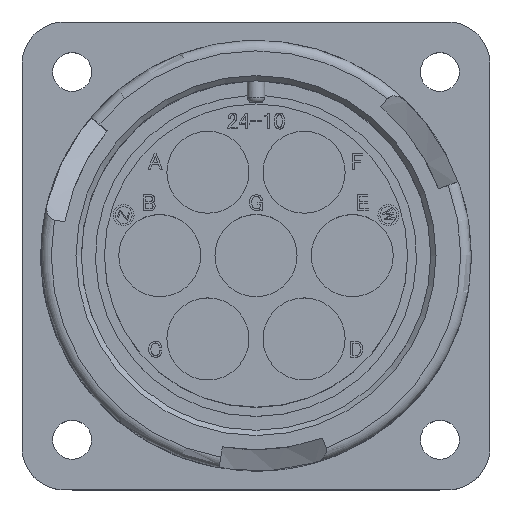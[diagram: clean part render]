
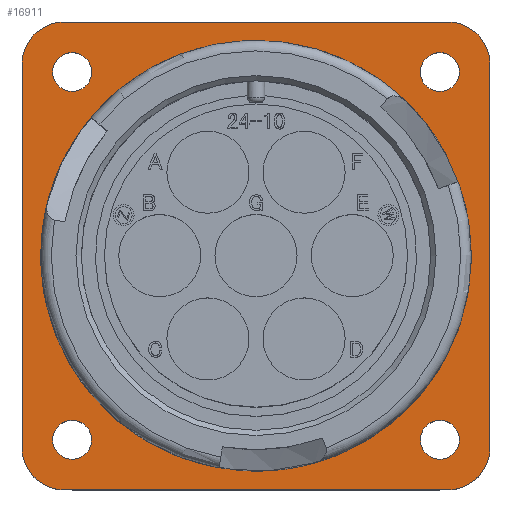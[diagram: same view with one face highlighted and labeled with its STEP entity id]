
A CAD part, top view. The second image highlights one B-rep face of the part: STEP entity #16911.
In plain terms, the highlighted planar face has unit normal (0, 0, 1).
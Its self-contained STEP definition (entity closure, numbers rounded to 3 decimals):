
#61 = CARTESIAN_POINT ( 'NONE',  ( -18.225, 22.225, -20.8 ) ) ;
#70 = FACE_BOUND ( 'NONE', #14378, .T. ) ;
#197 = CARTESIAN_POINT ( 'NONE',  ( 18.225, 18.225, -20.8 ) ) ;
#260 = ORIENTED_EDGE ( 'NONE', *, *, #2736, .F. ) ;
#274 = EDGE_CURVE ( 'NONE', #13976, #14227, #5797, .T. ) ;
#373 = FACE_BOUND ( 'NONE', #6234, .T. ) ;
#727 = AXIS2_PLACEMENT_3D ( 'NONE', #17544, #5928, #19516 ) ;
#931 = ORIENTED_EDGE ( 'NONE', *, *, #24969, .F. ) ;
#1112 = LINE ( 'NONE', #3845, #21800 ) ;
#1243 = CARTESIAN_POINT ( 'NONE',  ( -22.225, 18.225, -20.8 ) ) ;
#1245 = CARTESIAN_POINT ( 'NONE',  ( -18.225, 18.225, -20.8 ) ) ;
#1823 = LINE ( 'NONE', #6080, #17625 ) ;
#1877 = VERTEX_POINT ( 'NONE', #61 ) ;
#2150 = DIRECTION ( 'NONE',  ( -1., 0., 0. ) ) ;
#2163 = CARTESIAN_POINT ( 'NONE',  ( -22.225, -18.225, -20.8 ) ) ;
#2309 = PLANE ( 'NONE',  #3507 ) ;
#2344 = VERTEX_POINT ( 'NONE', #4840 ) ;
#2736 = EDGE_CURVE ( 'NONE', #17957, #17957, #15707, .T. ) ;
#3107 = DIRECTION ( 'NONE',  ( 0., 0., 1. ) ) ;
#3121 = AXIS2_PLACEMENT_3D ( 'NONE', #3274, #3107, #24628 ) ;
#3138 = FACE_BOUND ( 'NONE', #15092, .T. ) ;
#3274 = CARTESIAN_POINT ( 'NONE',  ( -17.465, 17.465, -20.8 ) ) ;
#3338 = VERTEX_POINT ( 'NONE', #23586 ) ;
#3507 = AXIS2_PLACEMENT_3D ( 'NONE', #197, #4051, #2150 ) ;
#3648 = VERTEX_POINT ( 'NONE', #6322 ) ;
#3668 = ORIENTED_EDGE ( 'NONE', *, *, #13801, .F. ) ;
#3775 = EDGE_CURVE ( 'NONE', #1877, #13264, #1823, .T. ) ;
#3845 = CARTESIAN_POINT ( 'NONE',  ( 18.225, -22.225, -20.8 ) ) ;
#4051 = DIRECTION ( 'NONE',  ( 0., 0., -1. ) ) ;
#4254 = DIRECTION ( 'NONE',  ( 0., 0., 1. ) ) ;
#4329 = DIRECTION ( 'NONE',  ( 1., 0., 0. ) ) ;
#4387 = DIRECTION ( 'NONE',  ( 0., -1., 0. ) ) ;
#4727 = ORIENTED_EDGE ( 'NONE', *, *, #3775, .F. ) ;
#4840 = CARTESIAN_POINT ( 'NONE',  ( 22.225, -18.225, -20.8 ) ) ;
#5014 = CIRCLE ( 'NONE', #14615, 1.85 ) ;
#5197 = AXIS2_PLACEMENT_3D ( 'NONE', #10464, #16604, #11842 ) ;
#5596 = LINE ( 'NONE', #6337, #14680 ) ;
#5797 = LINE ( 'NONE', #1243, #13077 ) ;
#5928 = DIRECTION ( 'NONE',  ( 0., 0., 1. ) ) ;
#6080 = CARTESIAN_POINT ( 'NONE',  ( 18.225, 22.225, -20.8 ) ) ;
#6213 = VERTEX_POINT ( 'NONE', #19982 ) ;
#6234 = EDGE_LOOP ( 'NONE', ( #15225 ) ) ;
#6322 = CARTESIAN_POINT ( 'NONE',  ( 15.615, -17.465, -20.8 ) ) ;
#6337 = CARTESIAN_POINT ( 'NONE',  ( 22.225, 18.225, -20.8 ) ) ;
#6406 = CARTESIAN_POINT ( 'NONE',  ( 18.225, -22.225, -20.8 ) ) ;
#6791 = EDGE_CURVE ( 'NONE', #12769, #12769, #15664, .T. ) ;
#7370 = AXIS2_PLACEMENT_3D ( 'NONE', #24725, #24548, #16872 ) ;
#7414 = ORIENTED_EDGE ( 'NONE', *, *, #274, .F. ) ;
#7717 = DIRECTION ( 'NONE',  ( -1., 0., 0. ) ) ;
#8327 = EDGE_CURVE ( 'NONE', #3338, #3338, #5014, .T. ) ;
#8393 = AXIS2_PLACEMENT_3D ( 'NONE', #17752, #4254, #15625 ) ;
#8933 = EDGE_CURVE ( 'NONE', #16741, #2344, #5596, .T. ) ;
#9016 = ORIENTED_EDGE ( 'NONE', *, *, #6791, .F. ) ;
#9261 = CARTESIAN_POINT ( 'NONE',  ( -17.465, -17.465, -20.8 ) ) ;
#9610 = EDGE_CURVE ( 'NONE', #14227, #1877, #13129, .T. ) ;
#9686 = EDGE_LOOP ( 'NONE', ( #15497, #4727, #12414, #7414, #931, #17636, #23015, #16078 ) ) ;
#9809 = CARTESIAN_POINT ( 'NONE',  ( 18.225, -18.225, -20.8 ) ) ;
#10464 = CARTESIAN_POINT ( 'NONE',  ( -18.225, -18.225, -20.8 ) ) ;
#10874 = CIRCLE ( 'NONE', #25050, 4. ) ;
#10893 = AXIS2_PLACEMENT_3D ( 'NONE', #1245, #16799, #16451 ) ;
#11002 = EDGE_LOOP ( 'NONE', ( #13069 ) ) ;
#11184 = DIRECTION ( 'NONE',  ( 0., 0., 1. ) ) ;
#11842 = DIRECTION ( 'NONE',  ( -1., 0., 0. ) ) ;
#12414 = ORIENTED_EDGE ( 'NONE', *, *, #9610, .F. ) ;
#12586 = EDGE_LOOP ( 'NONE', ( #260 ) ) ;
#12769 = VERTEX_POINT ( 'NONE', #23412 ) ;
#13069 = ORIENTED_EDGE ( 'NONE', *, *, #18834, .F. ) ;
#13077 = VECTOR ( 'NONE', #19277, 1000. ) ;
#13129 = CIRCLE ( 'NONE', #10893, 4. ) ;
#13156 = CARTESIAN_POINT ( 'NONE',  ( 18.225, 22.225, -20.8 ) ) ;
#13264 = VERTEX_POINT ( 'NONE', #13156 ) ;
#13711 = DIRECTION ( 'NONE',  ( 1., 0., 0. ) ) ;
#13801 = EDGE_CURVE ( 'NONE', #17315, #17315, #24606, .T. ) ;
#13976 = VERTEX_POINT ( 'NONE', #2163 ) ;
#14227 = VERTEX_POINT ( 'NONE', #16913 ) ;
#14290 = EDGE_CURVE ( 'NONE', #19296, #6213, #1112, .T. ) ;
#14378 = EDGE_LOOP ( 'NONE', ( #3668 ) ) ;
#14566 = EDGE_CURVE ( 'NONE', #13264, #16741, #15344, .T. ) ;
#14615 = AXIS2_PLACEMENT_3D ( 'NONE', #9261, #11184, #4329 ) ;
#14680 = VECTOR ( 'NONE', #4387, 1000. ) ;
#15092 = EDGE_LOOP ( 'NONE', ( #9016 ) ) ;
#15225 = ORIENTED_EDGE ( 'NONE', *, *, #8327, .F. ) ;
#15344 = CIRCLE ( 'NONE', #7370, 4. ) ;
#15497 = ORIENTED_EDGE ( 'NONE', *, *, #14566, .F. ) ;
#15625 = DIRECTION ( 'NONE',  ( 1., 0., 0. ) ) ;
#15664 = CIRCLE ( 'NONE', #24406, 20.45 ) ;
#15707 = CIRCLE ( 'NONE', #8393, 1.85 ) ;
#15975 = CARTESIAN_POINT ( 'NONE',  ( -19.315, 17.465, -20.8 ) ) ;
#16078 = ORIENTED_EDGE ( 'NONE', *, *, #8933, .F. ) ;
#16451 = DIRECTION ( 'NONE',  ( 1., 0., 0. ) ) ;
#16604 = DIRECTION ( 'NONE',  ( 0., 0., -1. ) ) ;
#16741 = VERTEX_POINT ( 'NONE', #21298 ) ;
#16799 = DIRECTION ( 'NONE',  ( 0., 0., -1. ) ) ;
#16872 = DIRECTION ( 'NONE',  ( -1., 0., 0. ) ) ;
#16911 = ADVANCED_FACE ( 'NONE', ( #373, #17106, #70, #23530, #3138, #20460 ), #2309, .F. ) ;
#16913 = CARTESIAN_POINT ( 'NONE',  ( -22.225, 18.225, -20.8 ) ) ;
#17106 = FACE_BOUND ( 'NONE', #11002, .T. ) ;
#17315 = VERTEX_POINT ( 'NONE', #15975 ) ;
#17429 = DIRECTION ( 'NONE',  ( -1., 0., 0. ) ) ;
#17544 = CARTESIAN_POINT ( 'NONE',  ( 17.465, -17.465, -20.8 ) ) ;
#17625 = VECTOR ( 'NONE', #13711, 1000. ) ;
#17636 = ORIENTED_EDGE ( 'NONE', *, *, #14290, .F. ) ;
#17642 = CARTESIAN_POINT ( 'NONE',  ( 0., 0., -20.8 ) ) ;
#17752 = CARTESIAN_POINT ( 'NONE',  ( 17.465, 17.465, -20.8 ) ) ;
#17858 = DIRECTION ( 'NONE',  ( 0., 0., -1. ) ) ;
#17957 = VERTEX_POINT ( 'NONE', #19729 ) ;
#18590 = CIRCLE ( 'NONE', #727, 1.85 ) ;
#18834 = EDGE_CURVE ( 'NONE', #3648, #3648, #18590, .T. ) ;
#19277 = DIRECTION ( 'NONE',  ( 0., 1., 0. ) ) ;
#19296 = VERTEX_POINT ( 'NONE', #6406 ) ;
#19497 = CIRCLE ( 'NONE', #5197, 4. ) ;
#19516 = DIRECTION ( 'NONE',  ( -1., 0., 0. ) ) ;
#19729 = CARTESIAN_POINT ( 'NONE',  ( 19.315, 17.465, -20.8 ) ) ;
#19982 = CARTESIAN_POINT ( 'NONE',  ( -18.225, -22.225, -20.8 ) ) ;
#20460 = FACE_OUTER_BOUND ( 'NONE', #9686, .T. ) ;
#20746 = EDGE_CURVE ( 'NONE', #2344, #19296, #10874, .T. ) ;
#21298 = CARTESIAN_POINT ( 'NONE',  ( 22.225, 18.225, -20.8 ) ) ;
#21694 = DIRECTION ( 'NONE',  ( -1., 0., 0. ) ) ;
#21800 = VECTOR ( 'NONE', #17429, 1000. ) ;
#23015 = ORIENTED_EDGE ( 'NONE', *, *, #20746, .F. ) ;
#23412 = CARTESIAN_POINT ( 'NONE',  ( -20.45, 0., -20.8 ) ) ;
#23530 = FACE_BOUND ( 'NONE', #12586, .T. ) ;
#23586 = CARTESIAN_POINT ( 'NONE',  ( -15.615, -17.465, -20.8 ) ) ;
#23619 = DIRECTION ( 'NONE',  ( 0., 0., 1. ) ) ;
#24406 = AXIS2_PLACEMENT_3D ( 'NONE', #17642, #23619, #7717 ) ;
#24548 = DIRECTION ( 'NONE',  ( 0., 0., -1. ) ) ;
#24606 = CIRCLE ( 'NONE', #3121, 1.85 ) ;
#24628 = DIRECTION ( 'NONE',  ( -1., 0., 0. ) ) ;
#24725 = CARTESIAN_POINT ( 'NONE',  ( 18.225, 18.225, -20.8 ) ) ;
#24969 = EDGE_CURVE ( 'NONE', #6213, #13976, #19497, .T. ) ;
#25050 = AXIS2_PLACEMENT_3D ( 'NONE', #9809, #17858, #21694 ) ;
